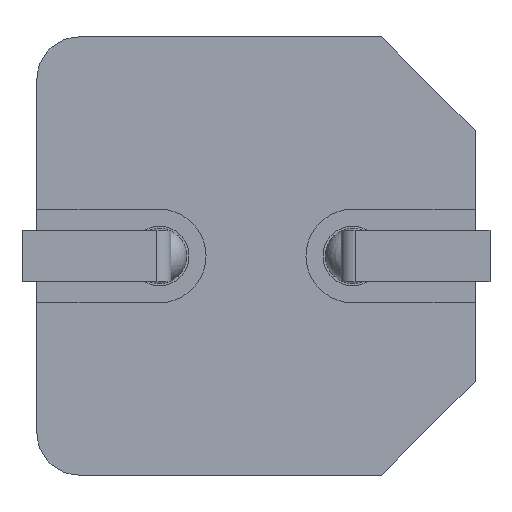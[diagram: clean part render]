
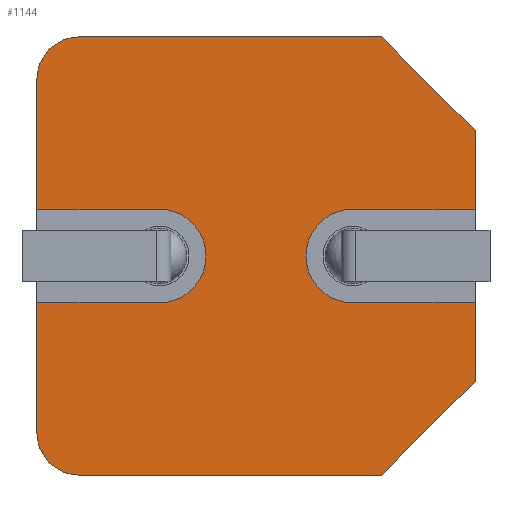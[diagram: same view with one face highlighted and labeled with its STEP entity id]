
A CAD part, front view. The second image highlights one B-rep face of the part: STEP entity #1144.
In plain terms, the highlighted planar face has unit normal (0, -1, 0).
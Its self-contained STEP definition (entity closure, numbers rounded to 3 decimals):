
#70=CIRCLE('',#1273,1.1);
#73=CIRCLE('',#1280,1.1);
#75=CIRCLE('',#1285,1.);
#76=CIRCLE('',#1286,1.);
#122=FACE_OUTER_BOUND('',#190,.T.);
#190=EDGE_LOOP('',(#801,#802,#803,#804,#805,#806,#807,#808,#809,#810,#811,
#812,#813,#814,#815,#816));
#248=LINE('',#1727,#363);
#252=LINE('',#1736,#367);
#257=LINE('',#1752,#372);
#261=LINE('',#1761,#376);
#266=LINE('',#1776,#381);
#274=LINE('',#1791,#389);
#275=LINE('',#1794,#390);
#276=LINE('',#1798,#391);
#277=LINE('',#1799,#392);
#278=LINE('',#1801,#393);
#279=LINE('',#1803,#394);
#280=LINE('',#1806,#395);
#363=VECTOR('',#1407,10.);
#367=VECTOR('',#1413,10.);
#372=VECTOR('',#1430,10.);
#376=VECTOR('',#1436,10.);
#381=VECTOR('',#1453,10.);
#389=VECTOR('',#1461,10.);
#390=VECTOR('',#1464,10.);
#391=VECTOR('',#1467,10.);
#392=VECTOR('',#1468,10.);
#393=VECTOR('',#1469,10.);
#394=VECTOR('',#1470,10.);
#395=VECTOR('',#1473,10.);
#479=VERTEX_POINT('',#1725);
#480=VERTEX_POINT('',#1726);
#483=VERTEX_POINT('',#1734);
#484=VERTEX_POINT('',#1735);
#488=VERTEX_POINT('',#1750);
#489=VERTEX_POINT('',#1751);
#492=VERTEX_POINT('',#1759);
#493=VERTEX_POINT('',#1760);
#497=VERTEX_POINT('',#1775);
#504=VERTEX_POINT('',#1789);
#505=VERTEX_POINT('',#1793);
#506=VERTEX_POINT('',#1795);
#507=VERTEX_POINT('',#1797);
#508=VERTEX_POINT('',#1800);
#509=VERTEX_POINT('',#1802);
#510=VERTEX_POINT('',#1804);
#587=EDGE_CURVE('',#479,#480,#248,.T.);
#591=EDGE_CURVE('',#483,#484,#252,.T.);
#596=EDGE_CURVE('',#484,#479,#70,.T.);
#599=EDGE_CURVE('',#488,#489,#257,.T.);
#603=EDGE_CURVE('',#492,#493,#261,.T.);
#608=EDGE_CURVE('',#489,#492,#73,.T.);
#611=EDGE_CURVE('',#497,#488,#266,.T.);
#619=EDGE_CURVE('',#493,#504,#274,.T.);
#620=EDGE_CURVE('',#480,#505,#275,.T.);
#621=EDGE_CURVE('',#506,#505,#75,.T.);
#622=EDGE_CURVE('',#506,#507,#276,.T.);
#623=EDGE_CURVE('',#497,#507,#277,.T.);
#624=EDGE_CURVE('',#508,#504,#278,.T.);
#625=EDGE_CURVE('',#508,#509,#279,.T.);
#626=EDGE_CURVE('',#510,#509,#76,.T.);
#627=EDGE_CURVE('',#510,#483,#280,.T.);
#801=ORIENTED_EDGE('',*,*,#591,.T.);
#802=ORIENTED_EDGE('',*,*,#596,.T.);
#803=ORIENTED_EDGE('',*,*,#587,.T.);
#804=ORIENTED_EDGE('',*,*,#620,.T.);
#805=ORIENTED_EDGE('',*,*,#621,.F.);
#806=ORIENTED_EDGE('',*,*,#622,.T.);
#807=ORIENTED_EDGE('',*,*,#623,.F.);
#808=ORIENTED_EDGE('',*,*,#611,.T.);
#809=ORIENTED_EDGE('',*,*,#599,.T.);
#810=ORIENTED_EDGE('',*,*,#608,.T.);
#811=ORIENTED_EDGE('',*,*,#603,.T.);
#812=ORIENTED_EDGE('',*,*,#619,.T.);
#813=ORIENTED_EDGE('',*,*,#624,.F.);
#814=ORIENTED_EDGE('',*,*,#625,.T.);
#815=ORIENTED_EDGE('',*,*,#626,.F.);
#816=ORIENTED_EDGE('',*,*,#627,.T.);
#1037=PLANE('',#1284);
#1144=ADVANCED_FACE('',(#122),#1037,.T.);
#1273=AXIS2_PLACEMENT_3D('',#1744,#1421,#1422);
#1280=AXIS2_PLACEMENT_3D('',#1769,#1444,#1445);
#1284=AXIS2_PLACEMENT_3D('',#1792,#1462,#1463);
#1285=AXIS2_PLACEMENT_3D('',#1796,#1465,#1466);
#1286=AXIS2_PLACEMENT_3D('',#1805,#1471,#1472);
#1407=DIRECTION('',(-1.,0.,0.));
#1413=DIRECTION('',(1.,0.,0.));
#1421=DIRECTION('center_axis',(0.,1.,0.));
#1422=DIRECTION('ref_axis',(1.,0.,0.));
#1430=DIRECTION('',(-1.,0.,0.));
#1436=DIRECTION('',(1.,0.,0.));
#1444=DIRECTION('center_axis',(0.,1.,0.));
#1445=DIRECTION('ref_axis',(1.,0.,0.));
#1453=DIRECTION('',(0.,0.,1.));
#1461=DIRECTION('',(0.,0.,1.));
#1462=DIRECTION('center_axis',(0.,-1.,0.));
#1463=DIRECTION('ref_axis',(0.,0.,-1.));
#1464=DIRECTION('',(0.,0.,-1.));
#1465=DIRECTION('center_axis',(0.,1.,0.));
#1466=DIRECTION('ref_axis',(-0.707,0.,-0.707));
#1467=DIRECTION('',(1.,0.,0.));
#1468=DIRECTION('',(-0.707,0.,-0.707));
#1469=DIRECTION('',(0.707,0.,-0.707));
#1470=DIRECTION('',(-1.,0.,0.));
#1471=DIRECTION('center_axis',(0.,1.,0.));
#1472=DIRECTION('ref_axis',(-0.707,0.,0.707));
#1473=DIRECTION('',(0.,0.,-1.));
#1725=CARTESIAN_POINT('',(-2.275,0.,-1.1));
#1726=CARTESIAN_POINT('',(-5.15,0.,-1.1));
#1727=CARTESIAN_POINT('',(-1.138,0.,-1.1));
#1734=CARTESIAN_POINT('',(-5.15,0.,1.1));
#1735=CARTESIAN_POINT('',(-2.275,0.,1.1));
#1736=CARTESIAN_POINT('',(-2.575,0.,1.1));
#1744=CARTESIAN_POINT('Origin',(-2.275,0.,0.));
#1750=CARTESIAN_POINT('',(5.15,0.,-1.1));
#1751=CARTESIAN_POINT('',(2.275,0.,-1.1));
#1752=CARTESIAN_POINT('',(2.575,0.,-1.1));
#1759=CARTESIAN_POINT('',(2.275,0.,1.1));
#1760=CARTESIAN_POINT('',(5.15,0.,1.1));
#1761=CARTESIAN_POINT('',(1.138,0.,1.1));
#1769=CARTESIAN_POINT('Origin',(2.275,0.,0.));
#1775=CARTESIAN_POINT('',(5.15,0.,-2.95));
#1776=CARTESIAN_POINT('',(5.15,0.,-5.15));
#1789=CARTESIAN_POINT('',(5.15,0.,2.95));
#1791=CARTESIAN_POINT('',(5.15,0.,-5.15));
#1792=CARTESIAN_POINT('Origin',(0.,0.,0.));
#1793=CARTESIAN_POINT('',(-5.15,0.,-4.15));
#1794=CARTESIAN_POINT('',(-5.15,0.,5.15));
#1795=CARTESIAN_POINT('',(-4.15,0.,-5.15));
#1796=CARTESIAN_POINT('Origin',(-4.15,0.,-4.15));
#1797=CARTESIAN_POINT('',(2.95,0.,-5.15));
#1798=CARTESIAN_POINT('',(-5.15,0.,-5.15));
#1799=CARTESIAN_POINT('',(4.05,0.,-4.05));
#1800=CARTESIAN_POINT('',(2.95,0.,5.15));
#1801=CARTESIAN_POINT('',(4.05,0.,4.05));
#1802=CARTESIAN_POINT('',(-4.15,0.,5.15));
#1803=CARTESIAN_POINT('',(5.15,0.,5.15));
#1804=CARTESIAN_POINT('',(-5.15,0.,4.15));
#1805=CARTESIAN_POINT('Origin',(-4.15,0.,4.15));
#1806=CARTESIAN_POINT('',(-5.15,0.,5.15));
